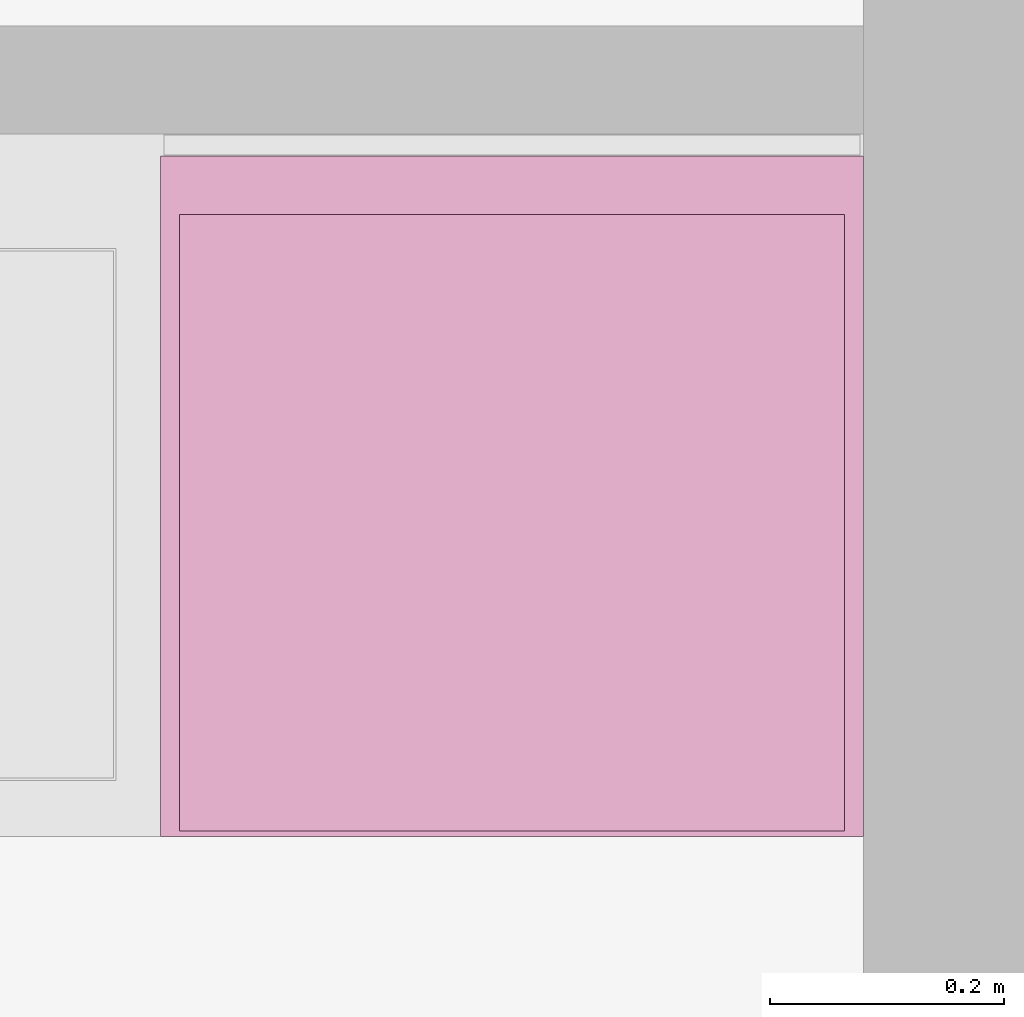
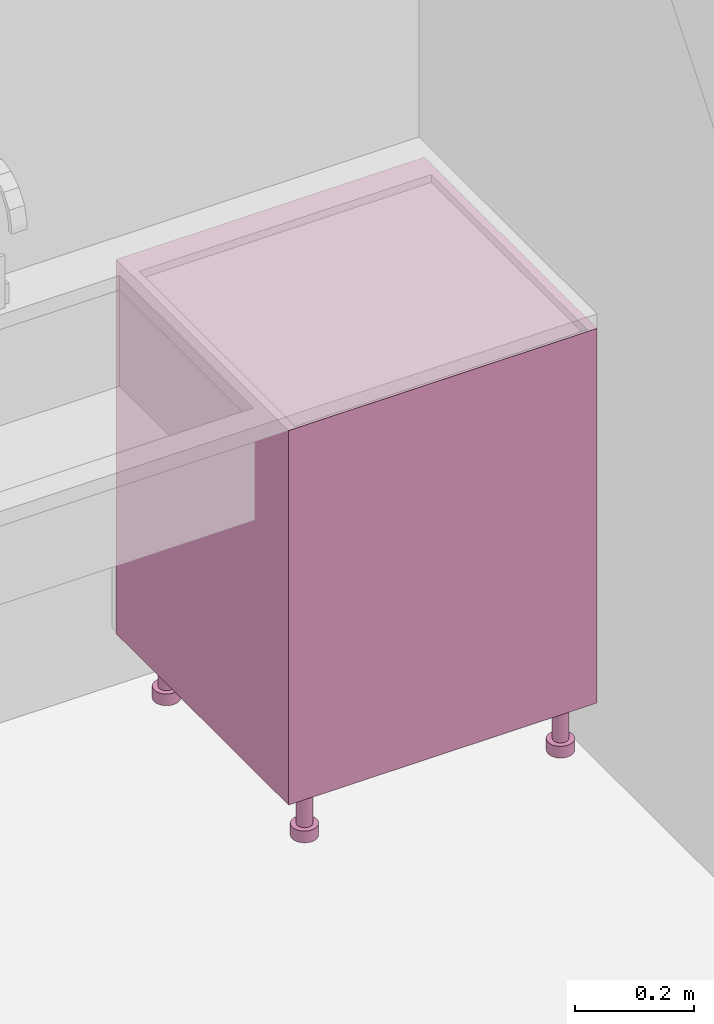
# One storey, part 69 of 125: 1 furnishing.
"""IFC2X3 building model written with IfcOpenShell, lengths in millimetres."""

from ifc_helpers import new_model, entity, si_unit, converted_unit, direction, frame, origin, place, context, subcontext, project, spatial, faceted_brep, source, transform, mapped, material, type_object, type_shapes, element, save


model = new_model("IFC2X3")

# Units and contexts
model_context = context("Model", 3, precision=0.01, world=origin(), true_north=direction((6.123233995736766e-17, 1.0)))
plan_context = context("Plan", 3, precision=0.01, world=origin(), true_north=direction((6.123233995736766e-17, 1.0)))
body_context = subcontext(model_context, "Body", "Model", "MODEL_VIEW")
ifc_project = project(units=[si_unit("LENGTHUNIT", "METRE", prefix="MILLI"), converted_unit("PLANEANGLEUNIT", "DEGREE", entity("IfcPlaneAngleMeasure", 0.017453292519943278), si_unit("PLANEANGLEUNIT", "RADIAN"), dimensions=[0, 0, 0, 0, 0, 0, 0]), si_unit("AREAUNIT", "SQUARE_METRE")], contexts=[model_context, plan_context])

# Site, building, storey, space
site_placement = place(None, origin())
site = spatial("IfcSite", under=ifc_project, at=site_placement, Name="Default", CompositionType="ELEMENT")
building_placement = place(site_placement, origin())
building = spatial("IfcBuilding", under=site, at=building_placement, CompositionType="ELEMENT")
storey_placement = place(building_placement, frame((0.0, 0.0, 3125.0)))
storey = spatial("IfcBuildingStorey", under=building, at=storey_placement, Name="2K", CompositionType="ELEMENT", Elevation=3125.0)
space_placement = place(storey_placement, origin())
space = spatial("IfcSpace", under=storey, at=space_placement, Name="2-1.2", CompositionType="ELEMENT", InteriorOrExteriorSpace="INTERNAL")

# Furnishing
ifc_material = material(Name="<Unnamed>")
furniture_type = type_object("IfcFurnitureType", Name="HR_Casework_Kitchen_Generic_Appliance_v1:Fridge", AssemblyPlace="NOTDEFINED", material=ifc_material)
shared_shape = source(origin(), body_context, "Body", "Brep", [
    faceted_brep([(305.7003264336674, -585.7846096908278, -3101.0), (310.6708891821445, -581.9705627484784, -3101.0), (300.70032643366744, -577.1243556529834, -3101.0), (297.32379306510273, -578.5229615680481, -3101.0), (299.91198351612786, -588.1822198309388, -3101.0), (303.59982137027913, -574.8994949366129, -3101.0), (314.4849361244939, -577.0, -3101.0), (305.82468208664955, -572.0, -3101.0), (307.2232880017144, -568.6234666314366, -3101.0), (316.8825462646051, -571.2116570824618, -3101.0), (307.70032643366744, -565.0, -3101.0), (317.7003264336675, -565.0, -3101.0), (307.2232880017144, -561.3765333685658, -3101.0), (316.88254626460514, -558.7883429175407, -3101.0), (305.82468208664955, -558.0, -3101.0), (314.484936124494, -553.0, -3101.0), (303.59982137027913, -555.1005050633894, -3101.0), (310.67088918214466, -548.0294372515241, -3101.0), (300.70032643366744, -552.875644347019, -3101.0), (305.7003264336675, -544.2153903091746, -3101.0), (297.32379306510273, -551.4770384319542, -3101.0), (299.91198351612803, -541.8177801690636, -3101.0), (293.7003264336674, -551.0, -3101.0), (293.70032643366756, -541.0, -3101.0), (290.07685980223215, -551.4770384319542, -3101.0), (287.488669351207, -541.8177801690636, -3101.0), (286.70032643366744, -552.875644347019, -3101.0), (281.7003264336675, -544.2153903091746, -3101.0), (283.80083149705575, -555.1005050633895, -3101.0), (276.7297636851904, -548.029437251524, -3101.0), (281.5759707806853, -558.0, -3101.0), (272.91571674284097, -553.0, -3101.0), (270.51810660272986, -558.7883429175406, -3101.0), (280.1773648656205, -561.3765333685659, -3101.0), (269.7003264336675, -565.0, -3101.0), (279.7003264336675, -565.0, -3101.0), (270.51810660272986, -571.2116570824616, -3101.0), (280.1773648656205, -568.6234666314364, -3101.0), (272.9157167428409, -577.0, -3101.0), (281.57597078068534, -572.0, -3101.0), (276.7297636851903, -581.9705627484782, -3101.0), (283.80083149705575, -574.8994949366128, -3101.0), (281.70032643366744, -585.7846096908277, -3101.0), (286.70032643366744, -577.1243556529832, -3101.0), (287.4886693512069, -588.1822198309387, -3101.0), (290.07685980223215, -578.5229615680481, -3101.0), (293.7003264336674, -589.0, -3101.0), (293.70032643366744, -579.0, -3101.0), (299.91198351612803, -541.8177801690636, -3125.0), (305.7003264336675, -544.2153903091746, -3125.0), (310.67088918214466, -548.0294372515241, -3125.0), (314.484936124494, -553.0, -3125.0), (316.88254626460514, -558.7883429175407, -3125.0), (317.7003264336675, -565.0, -3125.0), (316.8825462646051, -571.2116570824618, -3125.0), (314.4849361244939, -577.0, -3125.0), (310.6708891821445, -581.9705627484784, -3125.0), (305.7003264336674, -585.7846096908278, -3125.0), (299.91198351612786, -588.1822198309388, -3125.0), (293.7003264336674, -589.0, -3125.0), (287.4886693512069, -588.1822198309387, -3125.0), (281.70032643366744, -585.7846096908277, -3125.0), (276.7297636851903, -581.9705627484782, -3125.0), (272.9157167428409, -577.0, -3125.0), (270.51810660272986, -571.2116570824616, -3125.0), (269.7003264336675, -565.0, -3125.0), (270.51810660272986, -558.7883429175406, -3125.0), (272.91571674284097, -553.0, -3125.0), (276.7297636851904, -548.029437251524, -3125.0), (281.7003264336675, -544.2153903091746, -3125.0), (287.488669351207, -541.8177801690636, -3125.0), (293.70032643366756, -541.0, -3125.0), (297.32379306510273, -578.5229615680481, -3025.0), (300.70032643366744, -577.1243556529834, -3025.0), (303.59982137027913, -574.8994949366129, -3025.0), (305.8246820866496, -572.0, -3025.0), (307.2232880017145, -568.6234666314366, -3025.0), (307.70032643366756, -565.0, -3025.0), (307.2232880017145, -561.3765333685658, -3025.0), (305.8246820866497, -558.0, -3025.0), (303.5998213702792, -555.1005050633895, -3025.0), (300.70032643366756, -552.875644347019, -3025.0), (297.32379306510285, -551.4770384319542, -3025.0), (293.70032643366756, -551.0, -3025.0), (290.07685980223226, -551.4770384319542, -3025.0), (286.70032643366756, -552.875644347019, -3025.0), (283.80083149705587, -555.1005050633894, -3025.0), (281.5759707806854, -558.0, -3025.0), (280.1773648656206, -561.3765333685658, -3025.0), (279.70032643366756, -565.0, -3025.0), (280.1773648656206, -568.6234666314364, -3025.0), (281.5759707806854, -572.0, -3025.0), (283.8008314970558, -574.8994949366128, -3025.0), (286.7003264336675, -577.1243556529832, -3025.0), (290.07685980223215, -578.5229615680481, -3025.0), (293.70032643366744, -579.0, -3025.0)], [[[0, 1, 2]], [[0, 2, 3]], [[3, 4, 0]], [[2, 1, 5]], [[6, 5, 1]], [[7, 5, 6]], [[8, 7, 6]], [[8, 6, 9]], [[8, 9, 10]], [[10, 9, 11]], [[12, 10, 11]], [[12, 11, 13]], [[14, 12, 13]], [[14, 13, 15]], [[16, 14, 15]], [[15, 17, 16]], [[17, 18, 16]], [[18, 17, 19]], [[18, 19, 20]], [[21, 20, 19]], [[20, 21, 22]], [[22, 21, 23]], [[23, 24, 22]], [[24, 23, 25]], [[24, 25, 26]], [[27, 26, 25]], [[27, 28, 26]], [[27, 29, 28]], [[30, 28, 29]], [[31, 30, 29]], [[32, 30, 31]], [[33, 30, 32]], [[33, 32, 34]], [[34, 35, 33]], [[36, 35, 34]], [[36, 37, 35]], [[37, 36, 38]], [[39, 37, 38]], [[39, 38, 40]], [[39, 40, 41]], [[40, 42, 41]], [[41, 42, 43]], [[43, 42, 44]], [[44, 45, 43]], [[46, 45, 44]], [[4, 47, 46]], [[45, 46, 47]], [[4, 3, 47]], [[48, 49, 50, 51, 52, 53, 54, 55, 56, 57, 58, 59, 60, 61, 62, 63, 64, 65, 66, 67, 68, 69, 70, 71]], [[64, 36, 34, 65]], [[63, 38, 36, 64]], [[42, 40, 62, 61]], [[63, 62, 40, 38]], [[44, 42, 61, 60]], [[46, 44, 60, 59]], [[58, 4, 46, 59]], [[57, 0, 4, 58]], [[54, 53, 11, 9]], [[1, 0, 57, 56]], [[6, 55, 54, 9]], [[6, 1, 56, 55]], [[52, 13, 11, 53]], [[51, 15, 13, 52]], [[19, 17, 50, 49]], [[51, 50, 17, 15]], [[21, 19, 49, 48]], [[23, 21, 48, 71]], [[27, 69, 68, 29]], [[31, 67, 66, 32]], [[68, 67, 31, 29]], [[32, 66, 65, 34]], [[25, 70, 69, 27]], [[70, 25, 23, 71]], [[72, 73, 74, 75, 76, 77, 78, 79, 80, 81, 82, 83, 84, 85, 86, 87, 88, 89, 90, 91, 92, 93, 94, 95]], [[37, 39, 91, 90]], [[35, 37, 90, 89]], [[43, 45, 94, 93]], [[41, 43, 93, 92]], [[39, 41, 92, 91]], [[47, 95, 94, 45]], [[2, 5, 74, 73]], [[3, 2, 73, 72]], [[8, 10, 77, 76]], [[7, 8, 76, 75]], [[5, 7, 75, 74]], [[3, 72, 95, 47]], [[79, 78, 12, 14]], [[78, 77, 10, 12]], [[80, 16, 18, 81]], [[16, 80, 79, 14]], [[81, 18, 20, 82]], [[22, 83, 82, 20]], [[26, 28, 86, 85]], [[24, 26, 85, 84]], [[33, 35, 89, 88]], [[30, 33, 88, 87]], [[28, 30, 87, 86]], [[24, 84, 83, 22]]]),
    faceted_brep([(-192.29967356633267, -585.7846096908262, -3101.0), (-187.3291108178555, -581.9705627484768, -3101.0), (-197.29967356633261, -577.1243556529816, -3101.0), (-200.67620693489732, -578.5229615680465, -3101.0), (-198.08801648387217, -588.1822198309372, -3101.0), (-194.40017862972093, -574.8994949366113, -3101.0), (-183.51506387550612, -577.0, -3101.0), (-192.17531791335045, -572.0, -3101.0), (-190.77671199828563, -568.6234666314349, -3101.0), (-181.11745373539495, -571.2116570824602, -3101.0), (-190.29967356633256, -565.0, -3101.0), (-180.29967356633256, -565.0, -3101.0), (-190.77671199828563, -561.3765333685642, -3101.0), (-181.11745373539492, -558.788342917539, -3101.0), (-192.17531791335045, -558.0, -3101.0), (-183.515063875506, -553.0, -3101.0), (-194.40017862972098, -555.1005050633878, -3101.0), (-187.3291108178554, -548.0294372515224, -3101.0), (-197.29967356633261, -552.8756443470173, -3101.0), (-192.29967356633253, -544.215390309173, -3101.0), (-200.67620693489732, -551.4770384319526, -3101.0), (-198.08801648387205, -541.8177801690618, -3101.0), (-204.29967356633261, -551.0, -3101.0), (-204.29967356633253, -541.0, -3101.0), (-207.92314019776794, -551.4770384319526, -3101.0), (-210.51133064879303, -541.8177801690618, -3101.0), (-211.29967356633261, -552.8756443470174, -3101.0), (-216.29967356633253, -544.215390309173, -3101.0), (-214.19916850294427, -555.1005050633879, -3101.0), (-221.27023631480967, -548.0294372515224, -3101.0), (-216.42402921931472, -558.0, -3101.0), (-225.08428325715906, -553.0, -3101.0), (-227.48189339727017, -558.788342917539, -3101.0), (-217.8226351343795, -561.3765333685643, -3101.0), (-228.2996735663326, -565.0, -3101.0), (-218.29967356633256, -565.0, -3101.0), (-227.48189339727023, -571.21165708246, -3101.0), (-217.8226351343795, -568.6234666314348, -3101.0), (-225.08428325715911, -577.0, -3101.0), (-216.42402921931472, -572.0, -3101.0), (-221.27023631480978, -581.9705627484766, -3101.0), (-214.19916850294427, -574.8994949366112, -3101.0), (-216.29967356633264, -585.784609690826, -3101.0), (-211.29967356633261, -577.1243556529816, -3101.0), (-210.51133064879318, -588.1822198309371, -3101.0), (-207.9231401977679, -578.5229615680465, -3101.0), (-204.2996735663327, -589.0, -3101.0), (-204.29967356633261, -579.0, -3101.0), (-198.08801648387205, -541.8177801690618, -3125.0), (-192.29967356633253, -544.215390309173, -3125.0), (-187.3291108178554, -548.0294372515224, -3125.0), (-183.515063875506, -553.0, -3125.0), (-181.11745373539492, -558.788342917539, -3125.0), (-180.29967356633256, -565.0, -3125.0), (-181.11745373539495, -571.2116570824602, -3125.0), (-183.51506387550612, -577.0, -3125.0), (-187.3291108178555, -581.9705627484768, -3125.0), (-192.29967356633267, -585.7846096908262, -3125.0), (-198.08801648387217, -588.1822198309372, -3125.0), (-204.2996735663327, -589.0, -3125.0), (-210.51133064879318, -588.1822198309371, -3125.0), (-216.29967356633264, -585.784609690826, -3125.0), (-221.27023631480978, -581.9705627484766, -3125.0), (-225.08428325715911, -577.0, -3125.0), (-227.48189339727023, -571.21165708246, -3125.0), (-228.2996735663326, -565.0, -3125.0), (-227.48189339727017, -558.788342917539, -3125.0), (-225.08428325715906, -553.0, -3125.0), (-221.27023631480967, -548.0294372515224, -3125.0), (-216.29967356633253, -544.215390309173, -3125.0), (-210.51133064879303, -541.8177801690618, -3125.0), (-204.29967356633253, -541.0, -3125.0), (-200.67620693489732, -578.5229615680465, -3025.0), (-197.29967356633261, -577.1243556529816, -3025.0), (-194.40017862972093, -574.8994949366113, -3025.0), (-192.17531791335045, -572.0, -3025.0), (-190.77671199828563, -568.6234666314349, -3025.0), (-190.29967356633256, -565.0, -3025.0), (-190.77671199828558, -561.3765333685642, -3025.0), (-192.1753179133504, -558.0, -3025.0), (-194.40017862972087, -555.1005050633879, -3025.0), (-197.29967356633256, -552.8756443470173, -3025.0), (-200.67620693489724, -551.4770384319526, -3025.0), (-204.29967356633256, -551.0, -3025.0), (-207.92314019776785, -551.4770384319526, -3025.0), (-211.29967356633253, -552.8756443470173, -3025.0), (-214.1991685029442, -555.1005050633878, -3025.0), (-216.4240292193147, -558.0, -3025.0), (-217.8226351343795, -561.3765333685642, -3025.0), (-218.29967356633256, -565.0, -3025.0), (-217.8226351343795, -568.6234666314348, -3025.0), (-216.42402921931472, -572.0, -3025.0), (-214.19916850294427, -574.8994949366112, -3025.0), (-211.2996735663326, -577.1243556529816, -3025.0), (-207.9231401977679, -578.5229615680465, -3025.0), (-204.29967356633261, -579.0, -3025.0)], [[[0, 1, 2]], [[0, 2, 3]], [[3, 4, 0]], [[2, 1, 5]], [[6, 5, 1]], [[7, 5, 6]], [[8, 7, 6]], [[8, 6, 9]], [[8, 9, 10]], [[10, 9, 11]], [[12, 10, 11]], [[12, 11, 13]], [[14, 12, 13]], [[14, 13, 15]], [[16, 14, 15]], [[15, 17, 16]], [[17, 18, 16]], [[18, 17, 19]], [[18, 19, 20]], [[21, 20, 19]], [[20, 21, 22]], [[22, 21, 23]], [[23, 24, 22]], [[24, 23, 25]], [[24, 25, 26]], [[27, 26, 25]], [[27, 28, 26]], [[27, 29, 28]], [[30, 28, 29]], [[31, 30, 29]], [[32, 30, 31]], [[33, 30, 32]], [[33, 32, 34]], [[34, 35, 33]], [[36, 35, 34]], [[36, 37, 35]], [[37, 36, 38]], [[39, 37, 38]], [[39, 38, 40]], [[39, 40, 41]], [[40, 42, 41]], [[41, 42, 43]], [[43, 42, 44]], [[44, 45, 43]], [[46, 45, 44]], [[4, 47, 46]], [[45, 46, 47]], [[4, 3, 47]], [[48, 49, 50, 51, 52, 53, 54, 55, 56, 57, 58, 59, 60, 61, 62, 63, 64, 65, 66, 67, 68, 69, 70, 71]], [[64, 36, 34, 65]], [[63, 38, 36, 64]], [[42, 40, 62, 61]], [[63, 62, 40, 38]], [[44, 42, 61, 60]], [[46, 44, 60, 59]], [[58, 4, 46, 59]], [[57, 0, 4, 58]], [[54, 53, 11, 9]], [[1, 0, 57, 56]], [[6, 55, 54, 9]], [[6, 1, 56, 55]], [[52, 13, 11, 53]], [[51, 15, 13, 52]], [[19, 17, 50, 49]], [[51, 50, 17, 15]], [[21, 19, 49, 48]], [[23, 21, 48, 71]], [[27, 69, 68, 29]], [[31, 67, 66, 32]], [[68, 67, 31, 29]], [[32, 66, 65, 34]], [[25, 70, 69, 27]], [[70, 25, 23, 71]], [[72, 73, 74, 75, 76, 77, 78, 79, 80, 81, 82, 83, 84, 85, 86, 87, 88, 89, 90, 91, 92, 93, 94, 95]], [[37, 39, 91, 90]], [[35, 37, 90, 89]], [[43, 45, 94, 93]], [[41, 43, 93, 92]], [[39, 41, 92, 91]], [[47, 95, 94, 45]], [[2, 5, 74, 73]], [[3, 2, 73, 72]], [[8, 10, 77, 76]], [[7, 8, 76, 75]], [[5, 7, 75, 74]], [[3, 72, 95, 47]], [[79, 78, 12, 14]], [[78, 77, 10, 12]], [[80, 16, 18, 81]], [[16, 80, 79, 14]], [[81, 18, 20, 82]], [[22, 83, 82, 20]], [[26, 28, 86, 85]], [[24, 26, 85, 84]], [[33, 35, 89, 88]], [[30, 33, 88, 87]], [[28, 30, 87, 86]], [[24, 84, 83, 22]]]),
    faceted_brep([(305.70032643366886, -120.78460969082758, -3101.0), (310.670889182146, -116.97056274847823, -3101.0), (300.7003264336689, -112.12435565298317, -3101.0), (297.3237930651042, -113.52296156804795, -3101.0), (299.91198351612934, -123.18221983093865, -3101.0), (303.5998213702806, -109.8994949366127, -3101.0), (314.48493612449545, -112.0, -3101.0), (305.824682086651, -107.0, -3101.0), (307.2232880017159, -103.62346663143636, -3101.0), (316.88254626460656, -106.21165708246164, -3101.0), (307.700326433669, -100.0, -3101.0), (317.700326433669, -100.0, -3101.0), (307.2232880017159, -96.3765333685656, -3101.0), (316.8825462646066, -93.78834291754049, -3101.0), (305.824682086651, -93.0, -3101.0), (314.4849361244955, -88.0, -3101.0), (303.5998213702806, -90.10050506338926, -3101.0), (310.67088918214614, -83.02943725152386, -3101.0), (300.7003264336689, -87.8756443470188, -3101.0), (305.700326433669, -79.21539030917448, -3101.0), (297.3237930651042, -86.477038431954, -3101.0), (299.9119835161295, -76.81778016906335, -3101.0), (293.70032643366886, -86.0, -3101.0), (293.70032643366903, -76.0, -3101.0), (290.0768598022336, -86.47703843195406, -3101.0), (287.4886693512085, -76.81778016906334, -3101.0), (286.7003264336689, -87.87564434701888, -3101.0), (281.700326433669, -79.21539030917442, -3101.0), (283.8008314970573, -90.10050506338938, -3101.0), (276.72976368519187, -83.0294372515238, -3101.0), (281.5759707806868, -93.0, -3101.0), (272.91571674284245, -88.0, -3101.0), (270.51810660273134, -93.78834291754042, -3101.0), (280.177364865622, -96.37653336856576, -3101.0), (269.700326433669, -100.0, -3101.0), (279.700326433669, -100.0, -3101.0), (270.51810660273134, -106.2116570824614, -3101.0), (280.177364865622, -103.62346663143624, -3101.0), (272.9157167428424, -112.0, -3101.0), (281.5759707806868, -107.0, -3101.0), (276.72976368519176, -116.97056274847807, -3101.0), (283.8008314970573, -109.89949493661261, -3101.0), (281.7003264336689, -120.78460969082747, -3101.0), (286.7003264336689, -112.1243556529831, -3101.0), (287.4886693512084, -123.1822198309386, -3101.0), (290.0768598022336, -113.52296156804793, -3101.0), (293.70032643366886, -124.0, -3101.0), (293.7003264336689, -114.0, -3101.0), (299.9119835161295, -76.81778016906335, -3125.0), (305.700326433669, -79.21539030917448, -3125.0), (310.67088918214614, -83.02943725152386, -3125.0), (314.4849361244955, -88.0, -3125.0), (316.8825462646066, -93.78834291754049, -3125.0), (317.700326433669, -100.0, -3125.0), (316.88254626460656, -106.21165708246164, -3125.0), (314.48493612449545, -112.0, -3125.0), (310.670889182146, -116.97056274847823, -3125.0), (305.70032643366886, -120.78460969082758, -3125.0), (299.91198351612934, -123.18221983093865, -3125.0), (293.70032643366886, -124.0, -3125.0), (287.4886693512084, -123.1822198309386, -3125.0), (281.7003264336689, -120.78460969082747, -3125.0), (276.72976368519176, -116.97056274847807, -3125.0), (272.9157167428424, -112.0, -3125.0), (270.51810660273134, -106.2116570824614, -3125.0), (269.700326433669, -100.0, -3125.0), (270.51810660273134, -93.78834291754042, -3125.0), (272.91571674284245, -88.0, -3125.0), (276.72976368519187, -83.0294372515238, -3125.0), (281.700326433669, -79.21539030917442, -3125.0), (287.4886693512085, -76.81778016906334, -3125.0), (293.70032643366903, -76.0, -3125.0), (297.32379306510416, -113.52296156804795, -3025.0), (300.70032643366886, -112.12435565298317, -3025.0), (303.59982137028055, -109.8994949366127, -3025.0), (305.824682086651, -107.0, -3025.0), (307.22328800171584, -103.62346663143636, -3025.0), (307.700326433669, -100.0, -3025.0), (307.2232880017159, -96.3765333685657, -3025.0), (305.82468208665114, -93.0, -3025.0), (303.5998213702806, -90.10050506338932, -3025.0), (300.700326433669, -87.87564434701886, -3025.0), (297.32379306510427, -86.47703843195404, -3025.0), (293.700326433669, -86.0, -3025.0), (290.0768598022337, -86.47703843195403, -3025.0), (286.700326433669, -87.87564434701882, -3025.0), (283.8008314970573, -90.1005050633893, -3025.0), (281.5759707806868, -93.0, -3025.0), (280.177364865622, -96.37653336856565, -3025.0), (279.700326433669, -100.0, -3025.0), (280.177364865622, -103.62346663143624, -3025.0), (281.5759707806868, -107.0, -3025.0), (283.80083149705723, -109.89949493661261, -3025.0), (286.7003264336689, -112.1243556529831, -3025.0), (290.07685980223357, -113.52296156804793, -3025.0), (293.70032643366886, -114.0, -3025.0)], [[[0, 1, 2]], [[0, 2, 3]], [[3, 4, 0]], [[2, 1, 5]], [[6, 5, 1]], [[7, 5, 6]], [[8, 7, 6]], [[8, 6, 9]], [[8, 9, 10]], [[10, 9, 11]], [[12, 10, 11]], [[12, 11, 13]], [[14, 12, 13]], [[14, 13, 15]], [[16, 14, 15]], [[15, 17, 16]], [[17, 18, 16]], [[18, 17, 19]], [[18, 19, 20]], [[21, 20, 19]], [[20, 21, 22]], [[22, 21, 23]], [[23, 24, 22]], [[24, 23, 25]], [[24, 25, 26]], [[27, 26, 25]], [[27, 28, 26]], [[27, 29, 28]], [[30, 28, 29]], [[31, 30, 29]], [[32, 30, 31]], [[33, 30, 32]], [[33, 32, 34]], [[34, 35, 33]], [[36, 35, 34]], [[36, 37, 35]], [[37, 36, 38]], [[39, 37, 38]], [[39, 38, 40]], [[39, 40, 41]], [[40, 42, 41]], [[41, 42, 43]], [[43, 42, 44]], [[44, 45, 43]], [[46, 45, 44]], [[4, 47, 46]], [[45, 46, 47]], [[4, 3, 47]], [[48, 49, 50, 51, 52, 53, 54, 55, 56, 57, 58, 59, 60, 61, 62, 63, 64, 65, 66, 67, 68, 69, 70, 71]], [[64, 36, 34, 65]], [[63, 38, 36, 64]], [[42, 40, 62, 61]], [[63, 62, 40, 38]], [[44, 42, 61, 60]], [[46, 44, 60, 59]], [[58, 4, 46, 59]], [[57, 0, 4, 58]], [[54, 53, 11, 9]], [[1, 0, 57, 56]], [[6, 55, 54, 9]], [[6, 1, 56, 55]], [[52, 13, 11, 53]], [[51, 15, 13, 52]], [[19, 17, 50, 49]], [[51, 50, 17, 15]], [[21, 19, 49, 48]], [[23, 21, 48, 71]], [[27, 69, 68, 29]], [[31, 67, 66, 32]], [[68, 67, 31, 29]], [[32, 66, 65, 34]], [[25, 70, 69, 27]], [[70, 25, 23, 71]], [[72, 73, 74, 75, 76, 77, 78, 79, 80, 81, 82, 83, 84, 85, 86, 87, 88, 89, 90, 91, 92, 93, 94, 95]], [[37, 39, 91, 90]], [[35, 37, 90, 89]], [[43, 45, 94, 93]], [[41, 43, 93, 92]], [[39, 41, 92, 91]], [[47, 95, 94, 45]], [[2, 5, 74, 73]], [[3, 2, 73, 72]], [[8, 10, 77, 76]], [[7, 8, 76, 75]], [[5, 7, 75, 74]], [[3, 72, 95, 47]], [[79, 78, 12, 14]], [[78, 77, 10, 12]], [[80, 16, 18, 81]], [[16, 80, 79, 14]], [[81, 18, 20, 82]], [[22, 83, 82, 20]], [[26, 28, 86, 85]], [[24, 26, 85, 84]], [[33, 35, 89, 88]], [[30, 33, 88, 87]], [[28, 30, 87, 86]], [[24, 84, 83, 22]]]),
    faceted_brep([(-192.299673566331, -120.78460969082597, -3101.0), (-187.3291108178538, -116.97056274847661, -3101.0), (-197.29967356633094, -112.12435565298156, -3101.0), (-200.67620693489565, -113.52296156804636, -3101.0), (-198.0880164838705, -123.18221983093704, -3101.0), (-194.40017862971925, -109.89949493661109, -3101.0), (-183.5150638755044, -112.0, -3101.0), (-192.17531791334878, -107.0, -3101.0), (-190.77671199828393, -103.62346663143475, -3101.0), (-181.11745373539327, -106.21165708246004, -3101.0), (-190.29967356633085, -100.0, -3101.0), (-180.29967356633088, -100.0, -3101.0), (-190.77671199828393, -96.376533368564, -3101.0), (-181.11745373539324, -93.78834291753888, -3101.0), (-192.17531791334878, -93.0, -3101.0), (-183.51506387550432, -88.0, -3101.0), (-194.40017862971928, -90.10050506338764, -3101.0), (-187.32911081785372, -83.02943725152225, -3101.0), (-197.29967356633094, -87.8756443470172, -3101.0), (-192.29967356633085, -79.21539030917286, -3101.0), (-200.67620693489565, -86.4770384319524, -3101.0), (-198.08801648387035, -76.81778016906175, -3101.0), (-204.29967356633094, -86.0, -3101.0), (-204.29967356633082, -76.0, -3101.0), (-207.92314019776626, -86.47703843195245, -3101.0), (-210.51133064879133, -76.81778016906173, -3101.0), (-211.29967356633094, -87.87564434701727, -3101.0), (-216.29967356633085, -79.21539030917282, -3101.0), (-214.19916850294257, -90.10050506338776, -3101.0), (-221.270236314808, -83.0294372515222, -3101.0), (-216.424029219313, -93.0, -3101.0), (-225.08428325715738, -88.0, -3101.0), (-227.4818933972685, -93.78834291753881, -3101.0), (-217.82263513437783, -96.37653336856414, -3101.0), (-228.29967356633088, -100.0, -3101.0), (-218.29967356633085, -100.0, -3101.0), (-227.48189339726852, -106.2116570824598, -3101.0), (-217.82263513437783, -103.62346663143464, -3101.0), (-225.08428325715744, -112.0, -3101.0), (-216.424029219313, -107.0, -3101.0), (-221.27023631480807, -116.97056274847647, -3101.0), (-214.19916850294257, -109.899494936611, -3101.0), (-216.29967356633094, -120.78460969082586, -3101.0), (-211.29967356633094, -112.12435565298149, -3101.0), (-210.51133064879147, -123.18221983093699, -3101.0), (-207.9231401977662, -113.52296156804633, -3101.0), (-204.299673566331, -124.0, -3101.0), (-204.29967356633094, -114.0, -3101.0), (-198.08801648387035, -76.81778016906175, -3125.0), (-192.29967356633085, -79.21539030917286, -3125.0), (-187.32911081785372, -83.02943725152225, -3125.0), (-183.51506387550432, -88.0, -3125.0), (-181.11745373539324, -93.78834291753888, -3125.0), (-180.29967356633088, -100.0, -3125.0), (-181.11745373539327, -106.21165708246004, -3125.0), (-183.5150638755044, -112.0, -3125.0), (-187.3291108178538, -116.97056274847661, -3125.0), (-192.299673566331, -120.78460969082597, -3125.0), (-198.0880164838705, -123.18221983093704, -3125.0), (-204.299673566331, -124.0, -3125.0), (-210.51133064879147, -123.18221983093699, -3125.0), (-216.29967356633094, -120.78460969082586, -3125.0), (-221.27023631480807, -116.97056274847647, -3125.0), (-225.08428325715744, -112.0, -3125.0), (-227.48189339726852, -106.2116570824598, -3125.0), (-228.29967356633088, -100.0, -3125.0), (-227.4818933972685, -93.78834291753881, -3125.0), (-225.08428325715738, -88.0, -3125.0), (-221.270236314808, -83.0294372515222, -3125.0), (-216.29967356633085, -79.21539030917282, -3125.0), (-210.51133064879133, -76.81778016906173, -3125.0), (-204.29967356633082, -76.0, -3125.0), (-200.67620693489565, -113.52296156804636, -3025.0), (-197.29967356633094, -112.12435565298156, -3025.0), (-194.40017862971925, -109.89949493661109, -3025.0), (-192.17531791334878, -107.0, -3025.0), (-190.77671199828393, -103.62346663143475, -3025.0), (-190.29967356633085, -100.0, -3025.0), (-190.7767119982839, -96.3765333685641, -3025.0), (-192.1753179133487, -93.0, -3025.0), (-194.4001786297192, -90.10050506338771, -3025.0), (-197.29967356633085, -87.87564434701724, -3025.0), (-200.67620693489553, -86.47703843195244, -3025.0), (-204.29967356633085, -86.0, -3025.0), (-207.92314019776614, -86.47703843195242, -3025.0), (-211.29967356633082, -87.87564434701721, -3025.0), (-214.1991685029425, -90.10050506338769, -3025.0), (-216.42402921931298, -93.0, -3025.0), (-217.82263513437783, -96.37653336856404, -3025.0), (-218.29967356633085, -100.0, -3025.0), (-217.82263513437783, -103.62346663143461, -3025.0), (-216.424029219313, -107.0, -3025.0), (-214.19916850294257, -109.899494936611, -3025.0), (-211.29967356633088, -112.12435565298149, -3025.0), (-207.9231401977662, -113.52296156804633, -3025.0), (-204.29967356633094, -114.0, -3025.0)], [[[0, 1, 2]], [[0, 2, 3]], [[3, 4, 0]], [[2, 1, 5]], [[6, 5, 1]], [[7, 5, 6]], [[8, 7, 6]], [[8, 6, 9]], [[8, 9, 10]], [[10, 9, 11]], [[12, 10, 11]], [[12, 11, 13]], [[14, 12, 13]], [[14, 13, 15]], [[16, 14, 15]], [[15, 17, 16]], [[17, 18, 16]], [[18, 17, 19]], [[18, 19, 20]], [[21, 20, 19]], [[20, 21, 22]], [[22, 21, 23]], [[23, 24, 22]], [[24, 23, 25]], [[24, 25, 26]], [[27, 26, 25]], [[27, 28, 26]], [[27, 29, 28]], [[30, 28, 29]], [[31, 30, 29]], [[32, 30, 31]], [[33, 30, 32]], [[33, 32, 34]], [[34, 35, 33]], [[36, 35, 34]], [[36, 37, 35]], [[37, 36, 38]], [[39, 37, 38]], [[39, 38, 40]], [[39, 40, 41]], [[40, 42, 41]], [[41, 42, 43]], [[43, 42, 44]], [[44, 45, 43]], [[46, 45, 44]], [[4, 47, 46]], [[45, 46, 47]], [[4, 3, 47]], [[48, 49, 50, 51, 52, 53, 54, 55, 56, 57, 58, 59, 60, 61, 62, 63, 64, 65, 66, 67, 68, 69, 70, 71]], [[64, 36, 34, 65]], [[63, 38, 36, 64]], [[42, 40, 62, 61]], [[63, 62, 40, 38]], [[44, 42, 61, 60]], [[46, 44, 60, 59]], [[58, 4, 46, 59]], [[57, 0, 4, 58]], [[54, 53, 11, 9]], [[1, 0, 57, 56]], [[6, 55, 54, 9]], [[6, 1, 56, 55]], [[52, 13, 11, 53]], [[51, 15, 13, 52]], [[19, 17, 50, 49]], [[51, 50, 17, 15]], [[21, 19, 49, 48]], [[23, 21, 48, 71]], [[27, 69, 68, 29]], [[31, 67, 66, 32]], [[68, 67, 31, 29]], [[32, 66, 65, 34]], [[25, 70, 69, 27]], [[70, 25, 23, 71]], [[72, 73, 74, 75, 76, 77, 78, 79, 80, 81, 82, 83, 84, 85, 86, 87, 88, 89, 90, 91, 92, 93, 94, 95]], [[37, 39, 91, 90]], [[35, 37, 90, 89]], [[43, 45, 94, 93]], [[41, 43, 93, 92]], [[39, 41, 92, 91]], [[47, 95, 94, 45]], [[2, 5, 74, 73]], [[3, 2, 73, 72]], [[8, 10, 77, 76]], [[7, 8, 76, 75]], [[5, 7, 75, 74]], [[3, 72, 95, 47]], [[79, 78, 12, 14]], [[78, 77, 10, 12]], [[80, 16, 18, 81]], [[16, 80, 79, 14]], [[81, 18, 20, 82]], [[22, 83, 82, 20]], [[26, 28, 86, 85]], [[24, 26, 85, 84]], [[33, 35, 89, 88]], [[30, 33, 88, 87]], [[28, 30, 87, 86]], [[24, 84, 83, 22]]]),
    faceted_brep([(328.70032643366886, -19.0, -3009.0), (-239.2996735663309, -19.0, -3009.0), (-239.29967356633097, -595.0, -3009.0), (328.70032643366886, -595.0, -3009.0), (328.70032643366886, -19.0, -3025.0), (328.70032643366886, -595.0, -3025.0), (-239.29967356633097, -595.0, -3025.0), (-239.29967356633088, -19.0, -3025.0)], [[[0, 1, 2, 3]], [[4, 5, 6, 7]], [[1, 0, 4, 7]], [[2, 1, 7, 6]], [[3, 2, 6, 5]], [[0, 3, 5, 4]]]),
    faceted_brep([(-255.29967356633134, -19.0, -2255.0), (-255.2996735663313, -600.0, -2255.0), (344.7003264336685, -600.0, -2255.0), (344.7003264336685, -19.0, -2255.0), (328.70032643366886, -19.0, -2255.0), (328.70032643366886, -595.0, -2255.0), (-239.2996735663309, -595.0, -2255.0), (-239.2996735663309, -19.0, -2255.0), (-255.29967356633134, -19.0, -3025.0), (-239.2996735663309, -19.0, -3025.0), (-239.29967356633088, -595.0, -3025.0), (328.70032643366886, -595.0, -3025.0), (328.70032643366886, -19.0, -3025.0), (344.7003264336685, -19.0, -3025.0), (344.7003264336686, -600.0, -3025.0), (-255.2996735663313, -600.0, -3025.0)], [[[0, 1, 2, 3, 4, 5, 6, 7]], [[8, 9, 10, 11, 12, 13, 14, 15]], [[1, 0, 8, 15]], [[0, 7, 9, 8]], [[7, 6, 10, 9]], [[5, 4, 12, 11]], [[4, 3, 13, 12]], [[3, 2, 14, 13]], [[2, 1, 15, 14]], [[6, 5, 11, 10]]]),
    faceted_brep([(328.70032643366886, -69.0, -2255.0), (328.70032643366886, -19.0, -2255.0), (-239.29967356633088, -19.0, -2255.0), (-239.29967356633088, -69.0, -2255.0), (328.70032643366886, -69.0, -2271.0), (-239.29967356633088, -69.0, -2271.0), (-239.29967356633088, -19.0, -2271.0), (328.70032643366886, -19.0, -2271.0)], [[[0, 1, 2, 3]], [[4, 5, 6, 7]], [[0, 3, 5, 4]], [[3, 2, 6, 5]], [[2, 1, 7, 6]], [[1, 0, 4, 7]]]),
    faceted_brep([(328.7003264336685, -19.0, -2271.0), (-239.29967356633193, -19.0, -2271.0), (-239.2996735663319, -595.0, -2271.0), (328.7003264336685, -595.0, -2271.0), (328.7003264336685, -19.0, -3009.0), (328.7003264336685, -595.0, -3009.0), (-239.2996735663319, -595.0, -3009.0), (-239.2996735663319, -19.0, -3009.0)], [[[0, 1, 2, 3]], [[4, 5, 6, 7]], [[1, 0, 4, 7]], [[2, 1, 7, 6]], [[3, 2, 6, 5]], [[0, 3, 5, 4]]]),
])
type_shapes(furniture_type, [shared_shape])
furnishing_placement = place(space_placement, frame((2800.293208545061, 11187.0, 3125.0)))
element("IfcFurnishingElement", 1, at=furnishing_placement, inside=space, type_object=furniture_type, material=ifc_material, Name="HR_Casework_Kitchen_Generic_Appliance_v1:Fridge", ObjectType="HR_Casework_Kitchen_Generic_Appliance_v1:Fridge", context=body_context, shape_type="MappedRepresentation", body=[
    mapped(shared_shape, transform((0.0, 0.0, 0.0), scale=1.0)),
])

save(model, "model.ifc")
